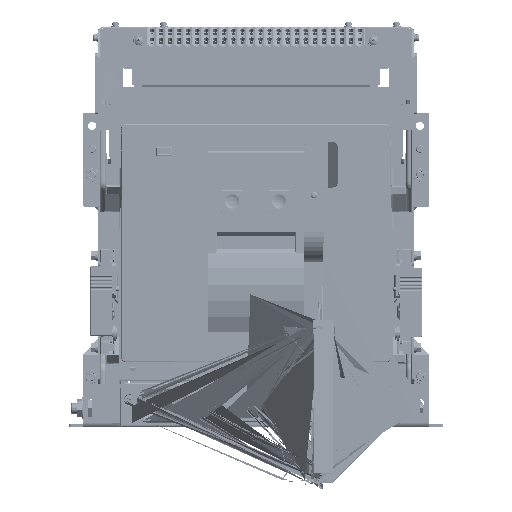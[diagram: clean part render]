
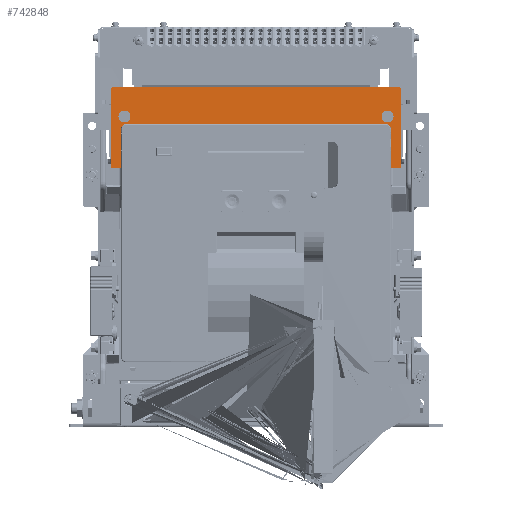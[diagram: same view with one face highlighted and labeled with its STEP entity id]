
A CAD part, front view. The second image highlights one B-rep face of the part: STEP entity #742848.
In plain terms, the highlighted planar face has unit normal (0, -1, 0).
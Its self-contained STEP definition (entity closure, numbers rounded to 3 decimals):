
#7976 = EDGE_CURVE ( 'NONE', #1106126, #555671, #795613, .T. ) ;
#8436 = EDGE_CURVE ( 'NONE', #492840, #1106126, #1168959, .T. ) ;
#29133 = ORIENTED_EDGE ( 'NONE', *, *, #8436, .T. ) ;
#38249 = AXIS2_PLACEMENT_3D ( 'NONE', #1180517, #251867, #354190 ) ;
#45500 = DIRECTION ( 'NONE',  ( 1., 0., 0. ) ) ;
#51603 = PLANE ( 'NONE',  #112576 ) ;
#64216 = CARTESIAN_POINT ( 'NONE',  ( 324., -209.2, 48.833 ) ) ;
#80103 = ORIENTED_EDGE ( 'NONE', *, *, #344425, .T. ) ;
#82921 = VERTEX_POINT ( 'NONE', #1030357 ) ;
#108579 = ORIENTED_EDGE ( 'NONE', *, *, #7976, .T. ) ;
#112576 = AXIS2_PLACEMENT_3D ( 'NONE', #865912, #696886, #606274 ) ;
#118470 = CARTESIAN_POINT ( 'NONE',  ( 626., -209.2, 103.8 ) ) ;
#128306 = DIRECTION ( 'NONE',  ( 0., 0., -1. ) ) ;
#130254 = FACE_BOUND ( 'NONE', #522330, .T. ) ;
#142686 = DIRECTION ( 'NONE',  ( 0., 0., -1. ) ) ;
#148603 = CARTESIAN_POINT ( 'NONE',  ( 612.5, -209.2, 72.3 ) ) ;
#178805 = EDGE_LOOP ( 'NONE', ( #553363, #264557 ) ) ;
#184865 = CARTESIAN_POINT ( 'NONE',  ( 329., -209.2, 59. ) ) ;
#186521 = AXIS2_PLACEMENT_3D ( 'NONE', #986979, #631029, #998873 ) ;
#186957 = CARTESIAN_POINT ( 'NONE',  ( 627., -209.2, 48.833 ) ) ;
#197985 = CARTESIAN_POINT ( 'NONE',  ( 612.5, -209.2, 72.3 ) ) ;
#212554 = VERTEX_POINT ( 'NONE', #829172 ) ;
#225614 = EDGE_CURVE ( 'NONE', #943746, #267974, #1181236, .T. ) ;
#251867 = DIRECTION ( 'NONE',  ( 0., 1., 0. ) ) ;
#254014 = ORIENTED_EDGE ( 'NONE', *, *, #1005615, .T. ) ;
#262904 = VECTOR ( 'NONE', #685483, 1000. ) ;
#264557 = ORIENTED_EDGE ( 'NONE', *, *, #514810, .T. ) ;
#267974 = VERTEX_POINT ( 'NONE', #665878 ) ;
#277132 = CIRCLE ( 'NONE', #643054, 6.5 ) ;
#277499 = DIRECTION ( 'NONE',  ( 0., 1., 0. ) ) ;
#283410 = LINE ( 'NONE', #186957, #560766 ) ;
#297341 = CARTESIAN_POINT ( 'NONE',  ( 313., -209.2, 12.365 ) ) ;
#301670 = DIRECTION ( 'NONE',  ( 0., 0., -1. ) ) ;
#307604 = DIRECTION ( 'NONE',  ( 0., 1., 0. ) ) ;
#318814 = AXIS2_PLACEMENT_3D ( 'NONE', #741807, #277499, #724000 ) ;
#328947 = FACE_OUTER_BOUND ( 'NONE', #608831, .T. ) ;
#329613 = CIRCLE ( 'NONE', #1157906, 6.5 ) ;
#336523 = VECTOR ( 'NONE', #45500, 1000. ) ;
#338433 = EDGE_CURVE ( 'NONE', #555671, #376300, #676337, .T. ) ;
#343368 = AXIS2_PLACEMENT_3D ( 'NONE', #850413, #307604, #301670 ) ;
#344425 = EDGE_CURVE ( 'NONE', #82921, #653306, #723340, .T. ) ;
#345974 = EDGE_CURVE ( 'NONE', #769425, #943746, #969115, .T. ) ;
#354190 = DIRECTION ( 'NONE',  ( 0., 0., -1. ) ) ;
#358906 = DIRECTION ( 'NONE',  ( 0., -1., 0. ) ) ;
#362124 = ORIENTED_EDGE ( 'NONE', *, *, #905854, .T. ) ;
#376300 = VERTEX_POINT ( 'NONE', #1020890 ) ;
#393125 = ORIENTED_EDGE ( 'NONE', *, *, #942013, .T. ) ;
#400486 = CARTESIAN_POINT ( 'NONE',  ( 313., -209.2, 16.8 ) ) ;
#413276 = CARTESIAN_POINT ( 'NONE',  ( 470., -209.2, 64. ) ) ;
#434600 = VECTOR ( 'NONE', #504528, 1000. ) ;
#443762 = EDGE_CURVE ( 'NONE', #212554, #492840, #283410, .T. ) ;
#461964 = ORIENTED_EDGE ( 'NONE', *, *, #225614, .T. ) ;
#468180 = AXIS2_PLACEMENT_3D ( 'NONE', #184865, #739699, #1107656 ) ;
#490902 = CARTESIAN_POINT ( 'NONE',  ( 321., -209.2, 72.3 ) ) ;
#492840 = VERTEX_POINT ( 'NONE', #1005622 ) ;
#498613 = LINE ( 'NONE', #962989, #434600 ) ;
#504528 = DIRECTION ( 'NONE',  ( 1., 0., 0. ) ) ;
#506314 = CARTESIAN_POINT ( 'NONE',  ( 470., -209.2, 103.8 ) ) ;
#514810 = EDGE_CURVE ( 'NONE', #521015, #843348, #277132, .T. ) ;
#516600 = DIRECTION ( 'NONE',  ( 0., 0., 1. ) ) ;
#521015 = VERTEX_POINT ( 'NONE', #636454 ) ;
#522330 = EDGE_LOOP ( 'NONE', ( #362124, #393125 ) ) ;
#536922 = DIRECTION ( 'NONE',  ( 0., 0., 1. ) ) ;
#538055 = EDGE_CURVE ( 'NONE', #843348, #521015, #329613, .T. ) ;
#553363 = ORIENTED_EDGE ( 'NONE', *, *, #538055, .T. ) ;
#555671 = VERTEX_POINT ( 'NONE', #1185249 ) ;
#560766 = VECTOR ( 'NONE', #536922, 1000. ) ;
#565786 = DIRECTION ( 'NONE',  ( 0., 0., -1. ) ) ;
#570453 = VECTOR ( 'NONE', #597809, 1000. ) ;
#591714 = CARTESIAN_POINT ( 'NONE',  ( 616., -209.2, 59. ) ) ;
#597809 = DIRECTION ( 'NONE',  ( 1., 0., 0. ) ) ;
#598438 = LINE ( 'NONE', #297341, #1099780 ) ;
#600752 = LINE ( 'NONE', #1161602, #262904 ) ;
#603716 = LINE ( 'NONE', #971647, #570453 ) ;
#606274 = DIRECTION ( 'NONE',  ( 0., 0., 1. ) ) ;
#608831 = EDGE_LOOP ( 'NONE', ( #1141066, #29133, #108579, #1048481, #884138, #850272, #984218, #461964, #761190, #80103, #254014, #931724 ) ) ;
#617046 = EDGE_CURVE ( 'NONE', #376300, #1163842, #598438, .T. ) ;
#631029 = DIRECTION ( 'NONE',  ( 0., -1., 0. ) ) ;
#636454 = CARTESIAN_POINT ( 'NONE',  ( 606., -209.2, 72.3 ) ) ;
#643054 = AXIS2_PLACEMENT_3D ( 'NONE', #197985, #803218, #565786 ) ;
#648567 = EDGE_CURVE ( 'NONE', #267974, #82921, #714456, .T. ) ;
#651634 = CIRCLE ( 'NONE', #343368, 6.5 ) ;
#653306 = VERTEX_POINT ( 'NONE', #591714 ) ;
#657806 = VECTOR ( 'NONE', #516600, 1000. ) ;
#665878 = CARTESIAN_POINT ( 'NONE',  ( 329., -209.2, 64. ) ) ;
#676337 = CIRCLE ( 'NONE', #965562, 1. ) ;
#685483 = DIRECTION ( 'NONE',  ( 0., 0., -1. ) ) ;
#685685 = DIRECTION ( 'NONE',  ( 0., 1., 0. ) ) ;
#696677 = VERTEX_POINT ( 'NONE', #1121759 ) ;
#696886 = DIRECTION ( 'NONE',  ( 0., -1., 0. ) ) ;
#709125 = DIRECTION ( 'NONE',  ( 0., 0., -1. ) ) ;
#714456 = LINE ( 'NONE', #413276, #336523 ) ;
#723340 = CIRCLE ( 'NONE', #318814, 5. ) ;
#724000 = DIRECTION ( 'NONE',  ( 0., 0., -1. ) ) ;
#739699 = DIRECTION ( 'NONE',  ( 0., 1., 0. ) ) ;
#741807 = CARTESIAN_POINT ( 'NONE',  ( 611., -209.2, 59. ) ) ;
#742848 = ADVANCED_FACE ( 'NONE', ( #1155308, #328947, #130254 ), #51603, .T. ) ;
#761190 = ORIENTED_EDGE ( 'NONE', *, *, #648567, .T. ) ;
#769425 = VERTEX_POINT ( 'NONE', #949230 ) ;
#789680 = DIRECTION ( 'NONE',  ( -1., 0., 0. ) ) ;
#795613 = LINE ( 'NONE', #506314, #1052846 ) ;
#803218 = DIRECTION ( 'NONE',  ( 0., 1., 0. ) ) ;
#829172 = CARTESIAN_POINT ( 'NONE',  ( 627., -209.2, 16.8 ) ) ;
#843348 = VERTEX_POINT ( 'NONE', #966113 ) ;
#850272 = ORIENTED_EDGE ( 'NONE', *, *, #1049491, .T. ) ;
#850413 = CARTESIAN_POINT ( 'NONE',  ( 327.5, -209.2, 72.3 ) ) ;
#865912 = CARTESIAN_POINT ( 'NONE',  ( 628., -209.2, 12.365 ) ) ;
#884138 = ORIENTED_EDGE ( 'NONE', *, *, #617046, .T. ) ;
#904208 = CIRCLE ( 'NONE', #38249, 6.5 ) ;
#905854 = EDGE_CURVE ( 'NONE', #988595, #964417, #651634, .T. ) ;
#931724 = ORIENTED_EDGE ( 'NONE', *, *, #1186147, .T. ) ;
#942013 = EDGE_CURVE ( 'NONE', #964417, #988595, #904208, .T. ) ;
#943746 = VERTEX_POINT ( 'NONE', #1172694 ) ;
#949230 = CARTESIAN_POINT ( 'NONE',  ( 324., -209.2, 16.8 ) ) ;
#962989 = CARTESIAN_POINT ( 'NONE',  ( 628., -209.2, 16.8 ) ) ;
#964417 = VERTEX_POINT ( 'NONE', #490902 ) ;
#965562 = AXIS2_PLACEMENT_3D ( 'NONE', #1094840, #358906, #709125 ) ;
#966113 = CARTESIAN_POINT ( 'NONE',  ( 619., -209.2, 72.3 ) ) ;
#969115 = LINE ( 'NONE', #64216, #657806 ) ;
#971647 = CARTESIAN_POINT ( 'NONE',  ( 628., -209.2, 16.8 ) ) ;
#984218 = ORIENTED_EDGE ( 'NONE', *, *, #345974, .T. ) ;
#986979 = CARTESIAN_POINT ( 'NONE',  ( 626., -209.2, 102.8 ) ) ;
#988595 = VERTEX_POINT ( 'NONE', #1046977 ) ;
#998873 = DIRECTION ( 'NONE',  ( 0., 0., -1. ) ) ;
#1005615 = EDGE_CURVE ( 'NONE', #653306, #696677, #600752, .T. ) ;
#1005622 = CARTESIAN_POINT ( 'NONE',  ( 627., -209.2, 102.8 ) ) ;
#1020890 = CARTESIAN_POINT ( 'NONE',  ( 313., -209.2, 102.8 ) ) ;
#1030357 = CARTESIAN_POINT ( 'NONE',  ( 611., -209.2, 64. ) ) ;
#1046977 = CARTESIAN_POINT ( 'NONE',  ( 334., -209.2, 72.3 ) ) ;
#1048481 = ORIENTED_EDGE ( 'NONE', *, *, #338433, .T. ) ;
#1049491 = EDGE_CURVE ( 'NONE', #1163842, #769425, #603716, .T. ) ;
#1052846 = VECTOR ( 'NONE', #789680, 1000. ) ;
#1094840 = CARTESIAN_POINT ( 'NONE',  ( 314., -209.2, 102.8 ) ) ;
#1099780 = VECTOR ( 'NONE', #128306, 1000. ) ;
#1106126 = VERTEX_POINT ( 'NONE', #118470 ) ;
#1107656 = DIRECTION ( 'NONE',  ( 0., 0., -1. ) ) ;
#1121759 = CARTESIAN_POINT ( 'NONE',  ( 616., -209.2, 16.8 ) ) ;
#1141066 = ORIENTED_EDGE ( 'NONE', *, *, #443762, .T. ) ;
#1155308 = FACE_BOUND ( 'NONE', #178805, .T. ) ;
#1157906 = AXIS2_PLACEMENT_3D ( 'NONE', #148603, #685685, #142686 ) ;
#1161602 = CARTESIAN_POINT ( 'NONE',  ( 616., -209.2, 48.833 ) ) ;
#1163842 = VERTEX_POINT ( 'NONE', #400486 ) ;
#1168959 = CIRCLE ( 'NONE', #186521, 1. ) ;
#1172694 = CARTESIAN_POINT ( 'NONE',  ( 324., -209.2, 59. ) ) ;
#1180517 = CARTESIAN_POINT ( 'NONE',  ( 327.5, -209.2, 72.3 ) ) ;
#1181236 = CIRCLE ( 'NONE', #468180, 5. ) ;
#1185249 = CARTESIAN_POINT ( 'NONE',  ( 314., -209.2, 103.8 ) ) ;
#1186147 = EDGE_CURVE ( 'NONE', #696677, #212554, #498613, .T. ) ;
